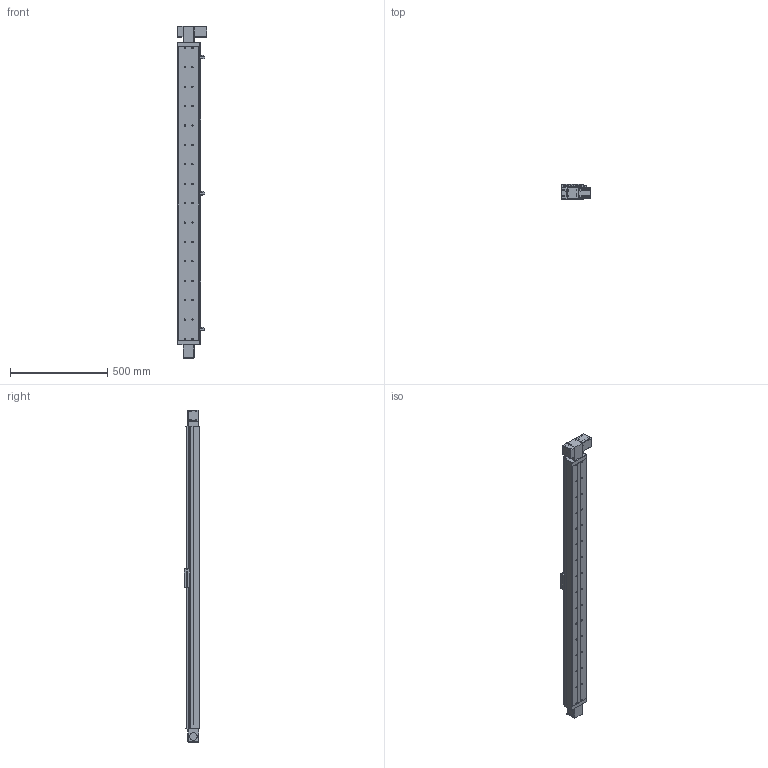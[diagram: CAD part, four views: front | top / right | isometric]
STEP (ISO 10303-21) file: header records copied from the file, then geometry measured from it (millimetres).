
FILE_DESCRIPTION((''),'2;1');
FILE_NAME('E:\uia actuator\UIA actuator 3d- 2015\Belt drive actuator\UIA110BR12(15)DC\UIA110BR12(15)DC-STEP FILE\UIA110BR12(15) stp file 13May16\UIA110BR12(15)DC-1400-M23-P13-C10-S.stp','2016-05-16T09:40:47',('h029'),(''),'Autodesk Inventor 11','Autodesk Inventor 11','');
FILE_SCHEMA(('AUTOMOTIVE_DESIGN { 1 0 10303 214 1 1 1 1 }'));
Length unit declared in the file: millimetre
Products named in the file (11): UIA110BR12(15)DC-1400; UIA110BR12(15)DC-1400-body; UIA110BR12(15)DC-1400-Sensor rail; UIA110B-Carriage; UIA110B- Sensor Flag; UIA110B-Cover; SOH-32C; SOH-32C-3; SOH-32C-1; SOH-32C-2; Motor mount
Assembly tree (10 placements, depth 3):
  UIA110BR12(15)DC-1400
    UIA110BR12(15)DC-1400-body
    UIA110BR12(15)DC-1400-Sensor rail
    UIA110B-Carriage
    UIA110B- Sensor Flag
    UIA110B-Cover
    SOH-32C
      SOH-32C-3
      SOH-32C-1
      SOH-32C-2
    Motor mount
Bounding box: 152 x 81 x 1711 mm (x, y, z)
Volume: 4941749.5 mm3; surface area: 1473098 mm2
Topology: 9 solids, 13 shells, 804 faces, 2266 edges, 1444 vertices
Faces by surface type: plane 495, cylinder 219, cone 42, bspline 40, sphere 8
Full cylindrical faces by diameter (mm): 2.459 x4, 3 x2, 3.242 x8, 3.5 x4, 4 x10, 4.5 x4, 4.917 x8, 5 x2, 6.35 x1, 6.5 x32, 7.5 x4, 10 x3, 11 x32, 12 x1, 20 x2, 32 x3, 37 x1, 38.1 x1, 39 x2, 43.5 x1, 46 x2
Entity records: 27418 total; most frequent: CARTESIAN_POINT 7345, DIRECTION 4107, ORIENTED_EDGE 3894, EDGE_CURVE 1947, AXIS2_PLACEMENT_3D 1432, VERTEX_POINT 1336, VECTOR 1243, LINE 1243
